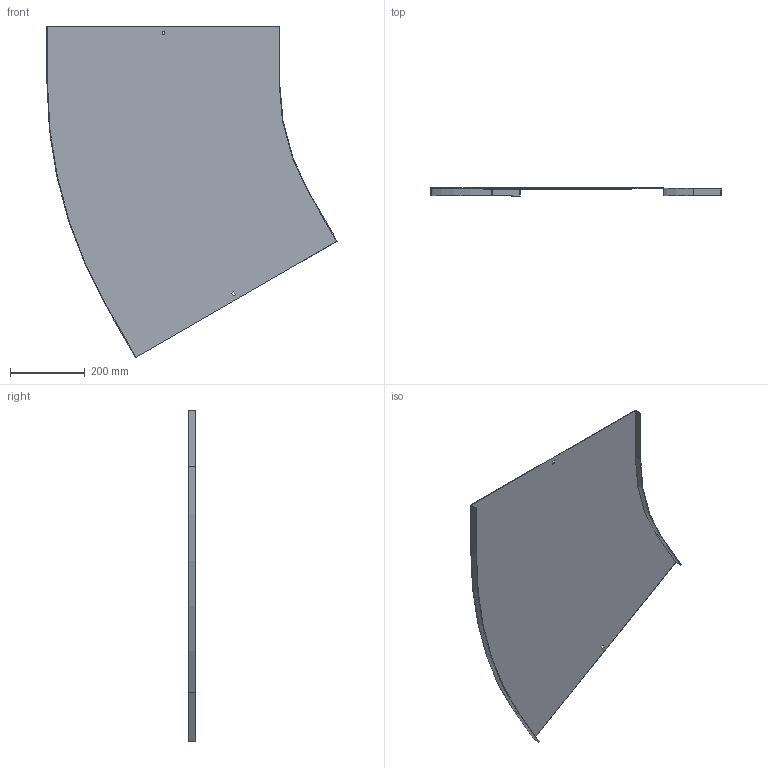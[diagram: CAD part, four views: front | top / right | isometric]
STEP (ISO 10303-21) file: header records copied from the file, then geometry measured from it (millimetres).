
FILE_DESCRIPTION (( 'STEP AP214' ), '1' );
FILE_NAME ('12N6P600.step', '2025-02-21T13:34:34', ( '' ), ( '' ), 'SwSTEP 2.0', 'SolidWorks 2023', '' );
FILE_SCHEMA (( 'AUTOMOTIVE_DESIGN' ));
Length unit declared in the file: millimetre
Products named in the file (1): 12N6P600
Bounding box: 776.84 x 20 x 885.65 mm (x, y, z)
Volume: 763351 mm3; surface area: 1022188.1 mm2
Topology: 1 solids, 1 shells, 26 faces, 72 edges, 48 vertices
Faces by surface type: plane 22, cylinder 4
Entity records: 855 total; most frequent: CARTESIAN_POINT 147, ORIENTED_EDGE 144, DIRECTION 134, EDGE_CURVE 72, LINE 64, VECTOR 64, VERTEX_POINT 48, AXIS2_PLACEMENT_3D 35
